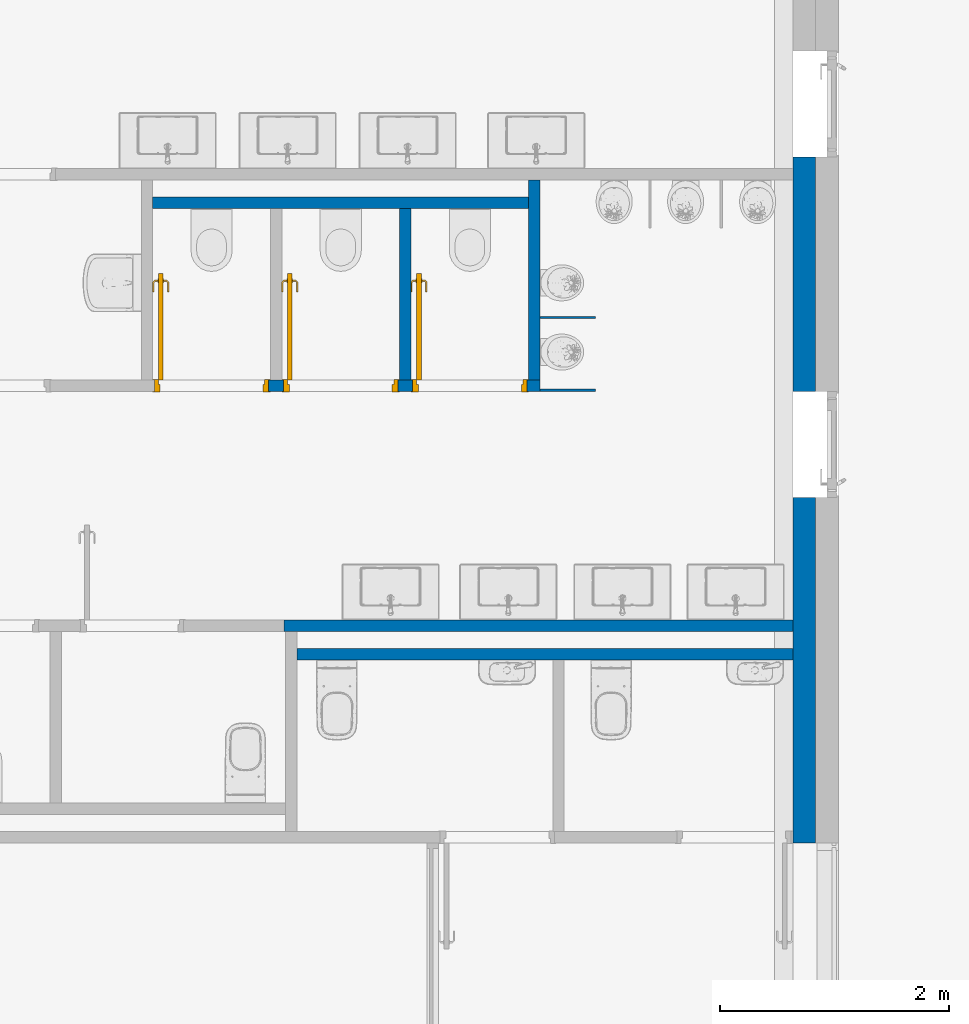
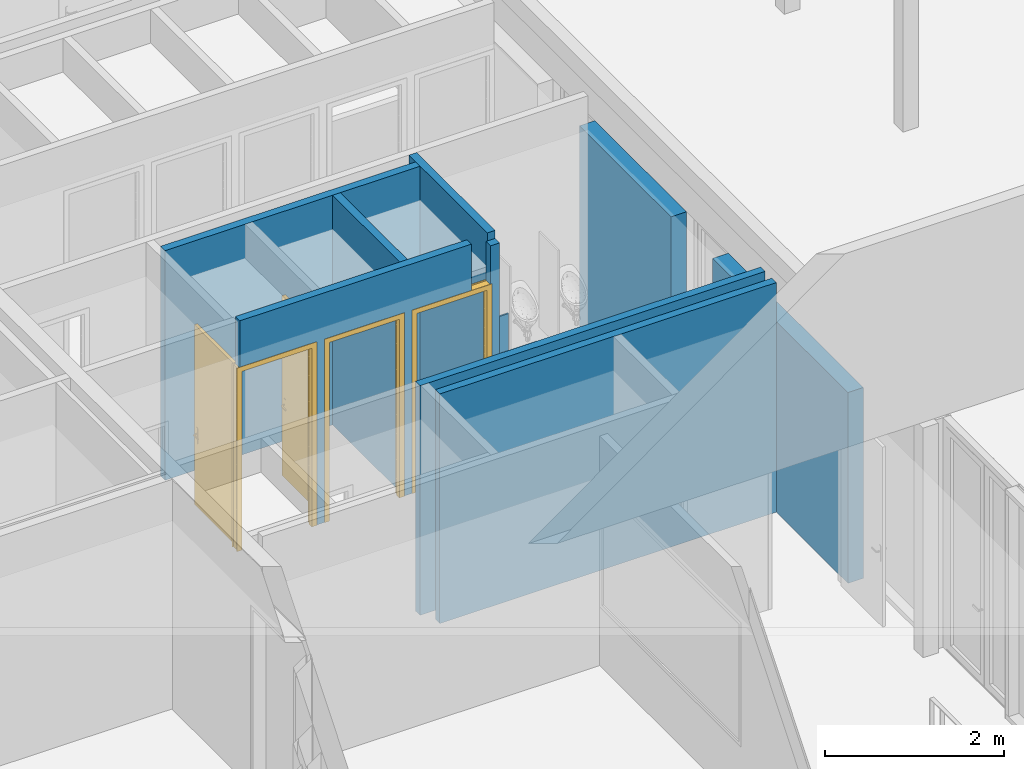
# One storey, part 118 of 240: 11 walls, 3 doors, 3 openings.
"""IFC2X3 building model written with IfcOpenShell, lengths in centimetres."""

import ifcopenshell
import ifcopenshell.guid

model = None  # the IFC model being written
_history = None  # IfcOwnerHistory: only IFC2X3 demands one
_inside = {}  # id of a spatial element -> (the spatial element, [elements in it])
_under = {}  # id of a project, library or spatial element -> (it, [spatial elements below it])
_declared = {}  # id of a project -> (the project, [libraries it declares])
_typed = {}  # id of a type object -> (the type object, [elements of that type])
_made_of = {}  # id of a material, layer set ... -> (it, [elements and type objects made of it])


def new_model(schema):
    """Start an empty IFC model of exactly this schema.

    Asked for "IFC4X3", IfcOpenShell would pick the latest addendum, in which some entities
    have other attributes; the version numbers below select the first issue.
    IFC2X3 requires an IfcOwnerHistory on every rooted entity: one is made here for all.
    """
    global model, _history
    if schema == "IFC4X3":
        model = ifcopenshell.file(schema_version=(4, 3, 0, 0))
    else:
        model = ifcopenshell.file(schema=schema)
    _inside.clear()
    _under.clear()
    _declared.clear()
    _typed.clear()
    _made_of.clear()
    _history = None
    if model.schema == "IFC2X3":
        org = make("IfcOrganization", Name="unknown")
        user = make(
            "IfcPersonAndOrganization",
            ThePerson=make("IfcPerson", FamilyName="unknown"),
            TheOrganization=org,
        )
        app = make(
            "IfcApplication",
            ApplicationDeveloper=org,
            Version="unknown",
            ApplicationFullName="unknown",
            ApplicationIdentifier="unknown",
        )
        _history = make(
            "IfcOwnerHistory",
            OwningUser=user,
            OwningApplication=app,
            ChangeAction="ADDED",
            CreationDate=0,
        )
    return model


def make(cls, **values):
    """One entity of the class cls with the attributes given. An attribute that is None is left unset."""
    return model.create_entity(
        cls, **{name: value for name, value in values.items() if value is not None}
    )


def entity(cls, *values):
    """Any entity or typed value of the class cls, its attributes in the order of the schema. None: left unset."""
    e = model.create_entity(cls)
    for i, value in enumerate(values):
        if value is not None:
            e[i] = value
    return e


def rooted(cls, **values):
    """An entity with a GlobalId (a new one), such as an element, a storey or a relation."""
    return make(cls, GlobalId=ifcopenshell.guid.new(), OwnerHistory=_history, **values)


def si_unit(unit_type, name, prefix=None):
    """IfcSIUnit, for example si_unit("LENGTHUNIT", "METRE", prefix="MILLI")."""
    return make("IfcSIUnit", UnitType=unit_type, Prefix=prefix, Name=name)


def converted_unit(unit_type, name, factor, base, dimensions=None, offset=None):
    """IfcConversionBasedUnit, such as the inch: factor (a typed value) times the base unit."""
    return make(
        "IfcConversionBasedUnit"
        if offset is None
        else "IfcConversionBasedUnitWithOffset",
        ConversionOffset=offset,
        Dimensions=None
        if dimensions is None
        else entity("IfcDimensionalExponents", *dimensions),
        UnitType=unit_type,
        Name=name,
        ConversionFactor=make(
            "IfcMeasureWithUnit", ValueComponent=factor, UnitComponent=base
        ),
    )


def derived_unit(unit_type, elements):
    """IfcDerivedUnit: a product of units, each with its exponent."""
    return make(
        "IfcDerivedUnit",
        Elements=[
            make("IfcDerivedUnitElement", Unit=unit, Exponent=power)
            for unit, power in elements
        ],
        UnitType=unit_type,
    )


def assignment(units):
    """IfcUnitAssignment: the units of a project."""
    return None if units is None else make("IfcUnitAssignment", Units=units)


def point(xyz):
    """IfcCartesianPoint."""
    return None if xyz is None else make("IfcCartesianPoint", Coordinates=xyz)


def direction(xyz):
    """IfcDirection."""
    return None if xyz is None else make("IfcDirection", DirectionRatios=xyz)


def frame(location, z_axis=None, x_axis=None):
    """IfcAxis2Placement3D, a coordinate frame: its origin and axes. An axis left out is left unset."""
    return make(
        "IfcAxis2Placement3D",
        Location=point(location),
        Axis=direction(z_axis),
        RefDirection=direction(x_axis),
    )


def frame_2d(location, x_axis=None):
    """IfcAxis2Placement2D, a coordinate frame in the plane: its origin and x axis."""
    return make(
        "IfcAxis2Placement2D", Location=point(location), RefDirection=direction(x_axis)
    )


def origin():
    """The frame at (0, 0, 0) with its axes left unset."""
    return frame((0.0, 0.0, 0.0))


def place(relative_to, where):
    """IfcLocalPlacement: puts the frame where relative to a parent placement (None: the world)."""
    return make(
        "IfcLocalPlacement", PlacementRelTo=relative_to, RelativePlacement=where
    )


def context(
    kind, dimensions, precision=None, world=None, true_north=None, identifier=None
):
    """IfcGeometricRepresentationContext, for example the 3D "Model" context."""
    return make(
        "IfcGeometricRepresentationContext",
        ContextIdentifier=identifier,
        ContextType=kind,
        CoordinateSpaceDimension=dimensions,
        Precision=precision,
        WorldCoordinateSystem=world,
        TrueNorth=true_north,
    )


def subcontext(parent, identifier, kind, view, scale=None):
    """IfcGeometricRepresentationSubContext, for example "Body" below "Model"."""
    return make(
        "IfcGeometricRepresentationSubContext",
        ContextIdentifier=identifier,
        ContextType=kind,
        ParentContext=parent,
        TargetScale=scale,
        TargetView=view,
    )


def project(units=None, contexts=None):
    """IfcProject with its units and contexts."""
    return rooted(
        "IfcProject",
        Name="project",
        RepresentationContexts=contexts,
        UnitsInContext=assignment(units),
    )


def spatial(cls, under=None, at=None, **own):
    """A site, building, storey or space (cls), placed at a placement, below another one or the project."""
    s = rooted(cls, ObjectPlacement=at, **own)
    if under is not None:
        _under.setdefault(under.id(), (under, []))[1].append(s)
    return s


def profile(cls, at=None, kind="AREA", **sizes):
    """A parametric profile (cls). Its sizes go by their IFC names, for example OverallWidth=200.0."""
    return make(cls, ProfileType=kind, Position=at, **sizes)


def rectangle(**sizes):
    """IfcRectangleProfileDef."""
    return profile("IfcRectangleProfileDef", **sizes)


def extrude(swept, where, along, depth):
    """IfcExtrudedAreaSolid: the profile swept, set in the frame where, extruded along a direction by depth."""
    return make(
        "IfcExtrudedAreaSolid",
        SweptArea=swept,
        Position=where,
        ExtrudedDirection=direction(along),
        Depth=depth,
    )


def faces_of(points, faces, orient=None, outer=None):
    """IfcFace entities. A face is a list of loops; a loop is a list of indices into points, from 0.

    orient and outer hold one flag for each loop. By default every Orientation is true, the
    first loop of a face is its IfcFaceOuterBound and the others are IfcFaceBound.
    """
    made = []
    for i, loops in enumerate(faces):
        bounds = []
        for j, loop in enumerate(loops):
            is_outer = j == 0 if outer is None else outer[i][j]
            bounds.append(
                make(
                    "IfcFaceOuterBound" if is_outer else "IfcFaceBound",
                    Bound=make("IfcPolyLoop", Polygon=[points[k] for k in loop]),
                    Orientation=True if orient is None else orient[i][j],
                )
            )
        made.append(make("IfcFace", Bounds=bounds))
    return made


def faceted_brep(points, faces, orient=None, outer=None, voids=None):
    """IfcFacetedBrep: a solid bounded by flat faces; with voids (closed shells), ...WithVoids."""
    shared = [point(p) for p in points]
    hull = make("IfcClosedShell", CfsFaces=faces_of(shared, faces, orient, outer))
    if voids is None:
        return make("IfcFacetedBrep", Outer=hull)
    return make(
        "IfcFacetedBrepWithVoids",
        Outer=hull,
        Voids=[
            make(cls, CfsFaces=faces_of(shared, fs, o, b)) for cls, fs, o, b in voids
        ],
    )


def shape(context_of_items, identifier, shape_type, items):
    """IfcShapeRepresentation: the items that make up one representation, for example the "Body"."""
    return make(
        "IfcShapeRepresentation",
        ContextOfItems=context_of_items,
        RepresentationIdentifier=identifier,
        RepresentationType=shape_type,
        Items=items,
    )


def source(mapping_origin, context_of_items, identifier, shape_type, items):
    """IfcRepresentationMap: a shape defined once, which mapped items show again and again."""
    return make(
        "IfcRepresentationMap",
        MappingOrigin=mapping_origin,
        MappedRepresentation=shape(context_of_items, identifier, shape_type, items),
    )


def transform(
    local_origin,
    x_axis=None,
    y_axis=None,
    z_axis=None,
    scale=None,
    scale2=None,
    scale3=None,
    uniform=True,
):
    """IfcCartesianTransformationOperator3D, or its non-uniform kind. x_axis, y_axis, z_axis: its Axis1, 2, 3."""
    if uniform:
        return make(
            "IfcCartesianTransformationOperator3D",
            Axis1=direction(x_axis),
            Axis2=direction(y_axis),
            LocalOrigin=point(local_origin),
            Scale=scale,
            Axis3=direction(z_axis),
        )
    return make(
        "IfcCartesianTransformationOperator3DnonUniform",
        Axis1=direction(x_axis),
        Axis2=direction(y_axis),
        LocalOrigin=point(local_origin),
        Scale=scale,
        Axis3=direction(z_axis),
        Scale2=scale2,
        Scale3=scale3,
    )


def mapped(mapping_source, mapping_target):
    """IfcMappedItem: shows the shape of a source again, moved by a transform."""
    return make(
        "IfcMappedItem", MappingSource=mapping_source, MappingTarget=mapping_target
    )


def material(Name=None, Category=None):
    """IfcMaterial."""
    return make("IfcMaterial", Name=Name, Category=Category)


def material_list(materials):
    """IfcMaterialList."""
    return make("IfcMaterialList", Materials=materials)


def layer(
    of_material, thickness, ventilated=None, Name=None, Category=None, Priority=None
):
    """IfcMaterialLayer: one layer of a wall or slab, of a material (None: an air gap)."""
    return make(
        "IfcMaterialLayer",
        Material=of_material,
        LayerThickness=thickness,
        IsVentilated=ventilated,
        Name=Name,
        Category=Category,
        Priority=Priority,
    )


def layer_set(layers, Name=None):
    """IfcMaterialLayerSet."""
    return make("IfcMaterialLayerSet", MaterialLayers=layers, LayerSetName=Name)


def layer_usage(for_layer_set, set_direction, sense, offset, extent=None):
    """IfcMaterialLayerSetUsage: how a layer set lies in its element."""
    return make(
        "IfcMaterialLayerSetUsage",
        ForLayerSet=for_layer_set,
        LayerSetDirection=set_direction,
        DirectionSense=sense,
        OffsetFromReferenceLine=offset,
        ReferenceExtent=extent,
    )


def made_of(thing, what):
    """Note that an element or type object is made of a material, layer set ...; save() writes the relation."""
    if what is not None:
        _made_of.setdefault(what.id(), (what, []))[1].append(thing)
    return thing


def type_object(cls, material=None, **own):
    """A type object (cls), such as IfcWallType, which elements share."""
    return made_of(rooted(cls, **own), material)


def type_shapes(of_type, sources):
    """Give a type object the sources (RepresentationMaps) that its elements show as mapped items."""
    of_type.RepresentationMaps = sources


def element(
    cls,
    number,
    at=None,
    inside=None,
    cuts=None,
    type_object=None,
    material=None,
    context=None,
    identifier="Body",
    shape_type=None,
    held_by="IfcProductDefinitionShape",
    body=None,
    shapes=None,
    **own,
):
    """One element of the class cls, such as IfcWall. Its Tag is "e" and its number.

    at: its placement. inside: the storey or other place that contains it. cuts: it is an
    opening in that element (IfcRelVoidsElement). A single representation is given by context,
    identifier, shape_type and body (its items); several are given by shapes. held_by: the class
    of the entity that holds the representations. save() writes the other relations.
    """
    e = rooted(cls, Tag="e%d" % number, ObjectPlacement=at, **own)
    if body is not None:
        shapes = [shape(context, identifier, shape_type, body)]
    if shapes is not None:
        e.Representation = make(held_by, Representations=shapes)
    if inside is not None:
        _inside.setdefault(inside.id(), (inside, []))[1].append(e)
    if cuts is not None:
        rooted(
            "IfcRelVoidsElement", RelatingBuildingElement=cuts, RelatedOpeningElement=e
        )
    if type_object is not None:
        _typed.setdefault(type_object.id(), (type_object, []))[1].append(e)
    return made_of(e, material)


def fill(opening, filler):
    """IfcRelFillsElement: the door or window that sits in an opening."""
    return rooted(
        "IfcRelFillsElement",
        RelatingOpeningElement=opening,
        RelatedBuildingElement=filler,
    )


def aggregate(whole, parts):
    """IfcRelAggregates: a whole, such as a stair, and the parts it consists of."""
    return rooted("IfcRelAggregates", RelatingObject=whole, RelatedObjects=parts)


def save(model, path):
    """Write the relations noted so far, then the file.

    IfcRelAggregates (storeys below a building ...), IfcRelContainedInSpatialStructure (elements
    in a storey), IfcRelDefinesByType, IfcRelAssociatesMaterial and IfcRelDeclares: one each for
    every whole, place, type object, material and project.
    """
    for whole, parts in _under.values():
        aggregate(whole, parts)
    for where, things in _inside.values():
        rooted(
            "IfcRelContainedInSpatialStructure",
            RelatedElements=things,
            RelatingStructure=where,
        )
    for kind, things in _typed.values():
        rooted("IfcRelDefinesByType", RelatedObjects=things, RelatingType=kind)
    for what, things in _made_of.values():
        rooted("IfcRelAssociatesMaterial", RelatedObjects=things, RelatingMaterial=what)
    for by, libraries in _declared.values():
        rooted("IfcRelDeclares", RelatingContext=by, RelatedDefinitions=libraries)
    model.write(path)


model = new_model("IFC2X3")

# Units and contexts
model_context = context("Model", 3, precision=0.001, world=origin(), true_north=direction((6.12303176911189e-17, 1.0)))
body_context = subcontext(model_context, "Body", "Model", "MODEL_VIEW")
ifc_project = project(units=[si_unit("LENGTHUNIT", "METRE", prefix="CENTI"), si_unit("AREAUNIT", "SQUARE_METRE"), si_unit("VOLUMEUNIT", "CUBIC_METRE"), converted_unit("PLANEANGLEUNIT", "DEGREE", entity("IfcRatioMeasure", 0.0174532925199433), si_unit("PLANEANGLEUNIT", "RADIAN"), dimensions=[0, 0, 0, 0, 0, 0, 0]), si_unit("MASSUNIT", "GRAM", prefix="KILO"), derived_unit("MASSDENSITYUNIT", [(si_unit("MASSUNIT", "GRAM", prefix="KILO"), 1), (si_unit("LENGTHUNIT", "METRE"), -3)]), si_unit("TIMEUNIT", "SECOND"), si_unit("FREQUENCYUNIT", "HERTZ"), si_unit("THERMODYNAMICTEMPERATUREUNIT", "DEGREE_CELSIUS"), derived_unit("THERMALTRANSMITTANCEUNIT", [(si_unit("MASSUNIT", "GRAM", prefix="KILO"), 1), (si_unit("THERMODYNAMICTEMPERATUREUNIT", "KELVIN"), -1), (si_unit("TIMEUNIT", "SECOND"), -3)]), derived_unit("VOLUMETRICFLOWRATEUNIT", [(si_unit("LENGTHUNIT", "METRE"), 3), (si_unit("TIMEUNIT", "SECOND"), -1)]), si_unit("ELECTRICCURRENTUNIT", "AMPERE"), si_unit("ELECTRICVOLTAGEUNIT", "VOLT"), si_unit("POWERUNIT", "WATT"), si_unit("FORCEUNIT", "NEWTON", prefix="KILO"), si_unit("ILLUMINANCEUNIT", "LUX"), si_unit("LUMINOUSFLUXUNIT", "LUMEN"), si_unit("LUMINOUSINTENSITYUNIT", "CANDELA"), derived_unit("USERDEFINED", [(si_unit("MASSUNIT", "GRAM", prefix="KILO"), -1), (si_unit("LENGTHUNIT", "METRE"), -2), (si_unit("TIMEUNIT", "SECOND"), 3), (si_unit("LUMINOUSFLUXUNIT", "LUMEN"), 1)]), derived_unit("LINEARVELOCITYUNIT", [(si_unit("LENGTHUNIT", "METRE"), 1), (si_unit("TIMEUNIT", "SECOND"), -1)]), si_unit("PRESSUREUNIT", "PASCAL"), derived_unit("USERDEFINED", [(si_unit("LENGTHUNIT", "METRE"), -2), (si_unit("MASSUNIT", "GRAM", prefix="KILO"), 1), (si_unit("TIMEUNIT", "SECOND"), -2)])], contexts=[model_context])

# Site, building, storey
site_placement = place(None, frame((-2781.94577612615, 7442.24238424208, 0.0)))
site = spatial("IfcSite", under=ifc_project, at=site_placement, Name="Default", CompositionType="ELEMENT")
building_placement = place(site_placement, origin())
building = spatial("IfcBuilding", under=site, at=building_placement, CompositionType="ELEMENT")
storey_placement = place(building_placement, origin())
storey = spatial("IfcBuildingStorey", under=building, at=storey_placement, Name="N00 - COO", CompositionType="ELEMENT", Elevation=0.0)

# Walls
ifc_material_1 = material(Name="01 - Maçonnerie")
ifc_layer_1 = layer(ifc_material_1, 20.0)
ifc_layer_set_1 = layer_set([ifc_layer_1], Name="Mur de base:04 - Structure - béton - 20cm")
ifc_layer_usage_1 = layer_usage(ifc_layer_set_1, "AXIS2", "NEGATIVE", 10.0)
wall_type_1 = type_object("IfcWallType", Name="Mur de base:04 - Structure - béton - 20cm", PredefinedType="STANDARD", material=ifc_layer_set_1)
wall_1_placement = place(building_placement, frame((-8911.93218005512, -3205.07903364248, 0.0), z_axis=(0.0, 0.0, 1.0), x_axis=(0.0, 1.0, 0.0)))
element("IfcWallStandardCase", 1, at=wall_1_placement, inside=storey, type_object=wall_type_1, material=ifc_layer_usage_1, Name="Mur de base:04 - Structure - béton - 20cm", ObjectType="Mur de base:04 - Structure - béton - 20cm", context=body_context, shape_type="SweptSolid", body=[
    extrude(rectangle(XDim=302.0, YDim=19.9999999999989, at=frame_2d((151.0, 0.0), x_axis=(-1.0, 0.0))), origin(), (0.0, 0.0, 1.0), 260.0),
])
ifc_layer_usage_2 = layer_usage(ifc_layer_set_1, "AXIS2", "NEGATIVE", 10.0)
wall_2_placement = place(building_placement, frame((-8911.93218005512, -2810.07903364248, -26.0), z_axis=(0.0, 0.0, 1.0), x_axis=(0.0, 1.0, 0.0)))
element("IfcWallStandardCase", 2, at=wall_2_placement, inside=storey, type_object=wall_type_1, material=ifc_layer_usage_2, Name="Mur de base:04 - Structure - béton - 20cm", ObjectType="Mur de base:04 - Structure - béton - 20cm", context=body_context, shape_type="SweptSolid", body=[
    extrude(rectangle(XDim=204.999999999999, YDim=19.9999999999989, at=frame_2d((102.499999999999, 0.0), x_axis=(-1.0, 0.0))), origin(), (0.0, 0.0, 1.0), 286.0),
])

# Wall, openings, doors
ifc_material_2 = material(Name="01 - Enduit/Plâtre")
ifc_layer_2 = layer(ifc_material_2, 1.3)
ifc_material_3 = material(Name="00 - Isolant")
ifc_layer_3 = layer(ifc_material_3, 7.4)
ifc_layer_4 = layer(ifc_material_2, 1.3)
ifc_layer_set_2 = layer_set([ifc_layer_2, ifc_layer_3, ifc_layer_4], Name="Mur de base:06 - cloisons - Ba13 10cm")
ifc_layer_usage_3 = layer_usage(ifc_layer_set_2, "AXIS2", "NEGATIVE", 5.0)
wall_type_2 = type_object("IfcWallType", Name="Mur de base:06 - cloisons - Ba13 10cm", PredefinedType="STANDARD", material=ifc_layer_set_2)
wall_3_placement = place(building_placement, frame((-9477.95999697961, -2805.07903364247, 0.0)))
wall_3 = element("IfcWallStandardCase", 3, at=wall_3_placement, inside=storey, type_object=wall_type_2, material=ifc_layer_usage_3, Name="Mur de base:06 - cloisons - Ba13 10cm", ObjectType="Mur de base:06 - cloisons - Ba13 10cm", context=body_context, shape_type="SweptSolid", body=[
    extrude(rectangle(XDim=298.523333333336, YDim=10.0000000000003, at=frame_2d((149.261666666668, 0.0), x_axis=(-1.0, 0.0))), origin(), (0.0, 0.0, 1.0), 313.0),
])
opening_1_placement = place(wall_3_placement, frame((-2.53999999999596, -5.0, 0.0)))
opening_1 = element("IfcOpeningElement", 4, at=opening_1_placement, cuts=wall_3, Name="Int. Simple:PP simple (0.93m x 2.50m):1", ObjectType="Opening", context=body_context, shape_type="SweptSolid", body=[
    extrude(rectangle(XDim=248.500000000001, YDim=99.9999999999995, at=frame_2d((124.250000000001, 50.0), x_axis=(1.0, 0.0))), frame((0.0, 0.0, 0.0), z_axis=(0.0, 1.0, 0.0), x_axis=(0.0, 0.0, 1.0)), (0.0, 0.0, 1.0), 10.0),
])
opening_2_placement = place(wall_3_placement, frame((110.443328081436, -5.0, 0.0)))
opening_2 = element("IfcOpeningElement", 5, at=opening_2_placement, cuts=wall_3, Name="Int. Simple:PP simple (0.93m x 2.50m):1", ObjectType="Opening", context=body_context, shape_type="SweptSolid", body=[
    extrude(rectangle(XDim=248.500000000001, YDim=99.9999999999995, at=frame_2d((124.250000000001, 50.0), x_axis=(1.0, 0.0))), frame((0.0, 0.0, 0.0), z_axis=(0.0, 1.0, 0.0), x_axis=(0.0, 0.0, 1.0)), (0.0, 0.0, 1.0), 10.0),
])
opening_3_placement = place(wall_3_placement, frame((223.44332808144, -5.0, 0.0)))
opening_3 = element("IfcOpeningElement", 6, at=opening_3_placement, cuts=wall_3, Name="Int. Simple:PP simple (0.93m x 2.50m):1", ObjectType="Opening", context=body_context, shape_type="SweptSolid", body=[
    extrude(rectangle(XDim=248.500000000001, YDim=99.9999999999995, at=frame_2d((124.250000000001, 50.0), x_axis=(1.0, 0.0))), frame((0.0, 0.0, 0.0), z_axis=(0.0, 1.0, 0.0), x_axis=(0.0, 0.0, 1.0)), (0.0, 0.0, 1.0), 10.0),
])
ifc_material_4 = material(Name="Finition Peinture - Blanc satiné")
ifc_material_5 = material(Name="Bois - Panneau de porte")
ifc_material_6 = material(Name="Bois - Cadre de porte")
ifc_material_list_1 = material_list([ifc_material_4, ifc_material_5, ifc_material_6])
ifc_material_list_2 = material_list([ifc_material_4, ifc_material_5, ifc_material_6])
door_style = type_object("IfcDoorStyle", Name="PP simple (0.93m x 2.50m)", ConstructionType="NOTDEFINED", OperationType="SINGLE_SWING_LEFT", ParameterTakesPrecedence=False, Sizeable=False, material=ifc_material_list_2)
shared_shape = source(origin(), body_context, "Body", "Brep", [
    faceted_brep([(97.0, -85.9647238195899, 86.6003983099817), (97.0, -85.0, 87.0), (97.0, -85.0, 108.0), (97.0, -85.96472381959, 108.399601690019), (97.0, -87.0, 108.535898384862), (97.0, -88.0352761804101, 108.399601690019), (97.0, -89.0, 108.0), (97.0, -89.0, 87.0), (97.0, -88.03527618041, 86.6003983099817), (97.0, -87.0, 86.464101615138), (96.5000000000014, -85.96472381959, 108.399601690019), (96.5000000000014, -85.0, 108.0), (96.5000000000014, -85.0, 87.0), (96.5000000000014, -85.9647238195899, 86.6003983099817), (96.5000000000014, -87.0, 86.464101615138), (96.5000000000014, -88.03527618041, 86.6003983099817), (96.5000000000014, -89.0, 87.0), (96.5000000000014, -89.0, 108.0), (96.5000000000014, -88.0352761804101, 108.399601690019), (96.5000000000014, -87.0, 108.535898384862)], [[[0, 1, 2, 3, 4, 5, 6, 7, 8, 9]], [[10, 11, 12, 13, 14, 15, 16, 17, 18, 19]], [[16, 15, 8, 7]], [[8, 15, 14, 9]], [[14, 13, 0, 9]], [[13, 12, 1, 0]], [[2, 1, 12, 11]], [[11, 10, 3, 2]], [[3, 10, 19, 4]], [[19, 18, 5, 4]], [[18, 17, 6, 5]], [[7, 6, 17, 16]]]),
    faceted_brep([(92.5000000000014, -85.9647238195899, 86.6003983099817), (92.5000000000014, -85.0, 87.0), (92.5000000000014, -85.0, 108.0), (92.5000000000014, -85.96472381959, 108.399601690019), (92.5000000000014, -87.0, 108.535898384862), (92.5000000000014, -88.0352761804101, 108.399601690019), (92.5000000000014, -89.0, 108.0), (92.5000000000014, -89.0, 87.0), (92.5000000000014, -88.03527618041, 86.6003983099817), (92.5000000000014, -87.0, 86.464101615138), (92.0, -85.96472381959, 108.399601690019), (92.0, -85.0, 108.0), (92.0, -85.0, 87.0), (92.0, -85.9647238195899, 86.6003983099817), (92.0, -87.0, 86.464101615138), (92.0, -88.03527618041, 86.6003983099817), (92.0, -89.0, 87.0), (92.0, -89.0, 108.0), (92.0, -88.0352761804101, 108.399601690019), (92.0, -87.0, 108.535898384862)], [[[0, 1, 2, 3, 4, 5, 6, 7, 8, 9]], [[10, 11, 12, 13, 14, 15, 16, 17, 18, 19]], [[11, 10, 3, 2]], [[3, 10, 19, 4]], [[19, 18, 5, 4]], [[18, 17, 6, 5]], [[7, 6, 17, 16]], [[16, 15, 8, 7]], [[8, 15, 14, 9]], [[14, 13, 0, 9]], [[13, 12, 1, 0]], [[2, 1, 12, 11]]]),
    faceted_brep([(97.0, -87.2025298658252, 100.778044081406), (97.0, -86.7974701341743, 100.778044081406), (97.0, -86.3999999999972, 100.699999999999), (97.0, -86.3999999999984, 99.3000000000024), (97.0, -86.7974701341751, 99.2219559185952), (97.0, -87.202529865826, 99.221955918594), (97.0, -87.6000000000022, 99.2999999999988), (97.0, -87.6000000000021, 100.7), (99.7650950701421, -87.6000000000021, 100.7), (99.6004575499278, -87.2025298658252, 100.778044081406), (101.205345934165, -85.5976414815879, 100.778044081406), (100.800286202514, -85.4298602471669, 100.778044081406), (99.4326763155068, -86.7974701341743, 100.778044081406), (99.2680387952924, -86.3999999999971, 100.7), (99.2680387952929, -86.3999999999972, 99.3000000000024), (99.4326763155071, -86.7974701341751, 99.2219559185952), (100.800286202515, -85.4298602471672, 99.2219559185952), (101.205345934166, -85.5976414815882, 99.221955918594), (99.6004575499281, -87.202529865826, 99.221955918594), (99.7650950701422, -87.6000000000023, 99.2999999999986), (101.602816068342, -85.7622790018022, 100.7), (100.402816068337, -85.2652227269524, 100.7), (100.402816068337, -85.2652227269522, 99.3000000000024), (101.602816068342, -85.7622790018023, 99.2999999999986), (101.602816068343, -76.9981359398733, 99.2999999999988), (101.205345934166, -76.9981359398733, 99.221955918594), (100.800286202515, -76.9981359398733, 99.2219559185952), (100.402816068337, -76.9981359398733, 99.3000000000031), (100.402816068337, -76.9981359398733, 100.7), (100.800286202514, -76.9981359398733, 100.778044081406), (101.205345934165, -76.9981359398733, 100.778044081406), (101.602816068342, -76.9981359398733, 100.699999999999), (101.602816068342, -81.7692302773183, 100.7), (101.00281606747, -81.2139980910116, 100.78786867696), (100.402816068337, -81.1316793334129, 100.7), (100.402816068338, -81.1316793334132, 99.3000000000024), (101.002816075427, -81.2139981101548, 99.2121313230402), (101.602816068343, -81.7692299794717, 99.2999999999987)], [[[0, 1, 2, 3, 4, 5, 6, 7]], [[8, 9, 0, 7]], [[9, 10, 11, 12, 1, 0]], [[12, 13, 2, 1]], [[3, 2, 13, 14]], [[14, 15, 4, 3]], [[15, 16, 17, 18, 5, 4]], [[18, 19, 6, 5]], [[7, 6, 19, 8]], [[20, 10, 9, 8]], [[11, 21, 13, 12]], [[14, 13, 21, 22]], [[22, 16, 15, 14]], [[17, 23, 19, 18]], [[8, 19, 23, 20]], [[24, 25, 26, 27, 28, 29, 30, 31]], [[32, 30, 33]], [[31, 30, 32]], [[10, 20, 32]], [[33, 34, 11]], [[21, 11, 34]], [[34, 29, 28]], [[30, 29, 33]], [[29, 34, 33]], [[10, 32, 33]], [[10, 33, 11]], [[22, 21, 34, 28, 27, 35]], [[35, 26, 36]], [[37, 36, 25]], [[22, 35, 16]], [[35, 27, 26]], [[24, 37, 25]], [[23, 17, 37]], [[37, 17, 36]], [[17, 16, 36]], [[16, 35, 36]], [[25, 36, 26]], [[20, 23, 37, 24, 31, 32]]]),
    faceted_brep([(92.0, -87.2025298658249, 100.778044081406), (92.0, -87.6000000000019, 100.7), (92.0, -87.6000000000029, 99.2999999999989), (92.0, -87.2025298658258, 99.221955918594), (92.0, -86.7974701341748, 99.2219559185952), (92.0, -86.399999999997, 99.3000000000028), (92.0, -86.3999999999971, 100.7), (92.0, -86.797470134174, 100.778044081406), (89.7514795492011, -86.399999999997, 99.3000000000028), (89.751479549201, -86.399999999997, 100.7), (89.5868420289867, -86.7974701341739, 100.778044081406), (88.2054812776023, -85.4161093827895, 100.778044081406), (87.8004215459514, -85.5838906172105, 100.778044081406), (89.4190607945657, -87.2025298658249, 100.778044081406), (89.2544232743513, -87.6000000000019, 100.7), (89.2544232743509, -87.6000000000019, 99.2999999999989), (89.4190607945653, -87.2025298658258, 99.221955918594), (87.8004215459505, -85.5838906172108, 99.221955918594), (88.2054812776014, -85.4161093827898, 99.2219559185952), (89.5868420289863, -86.7974701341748, 99.2219559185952), (88.6029514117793, -85.2514718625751, 99.3000000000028), (88.6029514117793, -85.2514718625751, 100.7), (87.4029514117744, -85.7485281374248, 100.7), (87.4029514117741, -85.7485281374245, 99.2999999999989), (88.6029514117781, -76.9954216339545, 99.3000000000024), (88.2054812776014, -76.9954216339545, 99.2219559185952), (87.8004215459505, -76.9954216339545, 99.221955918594), (87.4029514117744, -76.9954216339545, 99.2999999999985), (87.4029514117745, -76.9954216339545, 100.7), (87.8004215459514, -76.9954216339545, 100.778044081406), (88.2054812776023, -76.9954216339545, 100.778044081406), (88.6029514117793, -76.9954216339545, 100.7), (88.6029514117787, -81.1234479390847, 99.3000000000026), (88.6029514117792, -81.1234467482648, 100.7), (88.0029514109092, -81.2057655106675, 100.78786867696), (87.4029514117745, -81.755479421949, 100.7), (87.4029514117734, -81.75547956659, 99.2999999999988), (88.0029514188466, -81.2057654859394, 99.2121313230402)], [[[0, 1, 2, 3, 4, 5, 6, 7]], [[6, 5, 8, 9]], [[9, 10, 7, 6]], [[10, 11, 12, 13, 0, 7]], [[13, 14, 1, 0]], [[2, 1, 14, 15]], [[15, 16, 3, 2]], [[16, 17, 18, 19, 4, 3]], [[19, 8, 5, 4]], [[9, 8, 20, 21]], [[21, 11, 10, 9]], [[12, 22, 14, 13]], [[15, 14, 22, 23]], [[23, 17, 16, 15]], [[18, 20, 8, 19]], [[24, 25, 26, 27, 28, 29, 30, 31]], [[21, 20, 32, 24, 31, 33]], [[33, 30, 34]], [[35, 34, 29]], [[21, 33, 11]], [[33, 31, 30]], [[28, 35, 29]], [[22, 12, 35]], [[35, 12, 34]], [[12, 11, 34]], [[11, 33, 34]], [[29, 34, 30]], [[22, 35, 28, 27, 36, 23]], [[36, 26, 37]], [[27, 26, 36]], [[17, 23, 36]], [[37, 32, 18]], [[20, 18, 32]], [[32, 25, 24]], [[26, 25, 37]], [[25, 32, 37]], [[17, 36, 37]], [[17, 37, 18]]]),
    faceted_brep([(92.5000000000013, -93.0, 245.0), (92.5000000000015, 0.0, 245.0), (92.5000000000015, 0.0, 0.0), (92.5000000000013, -93.0, 0.0), (96.5000000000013, -93.0, 245.0), (96.5000000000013, -93.0, 0.0), (96.5000000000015, 0.0, 0.0), (96.5000000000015, 0.0, 245.0)], [[[0, 1, 2, 3]], [[4, 5, 6, 7]], [[1, 0, 4, 7]], [[2, 1, 7, 6]], [[3, 2, 6, 5]], [[0, 3, 5, 4]]]),
    faceted_brep([(0.0, 10.0, 0.0), (-1.50000000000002, 10.0, 0.0), (-1.50000000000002, 10.5000000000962, 0.0), (5.0, 10.5000000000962, 0.0), (5.0, 4.0, 0.0), (3.50000000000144, 4.0, 0.0), (3.50000000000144, -0.500000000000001, 0.0), (-1.50000000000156, -0.500000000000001, 0.0), (-1.50000000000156, 0.0, 0.0), (0.0, 0.0, 0.0), (0.0, 0.0, 248.500000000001), (0.0, 10.0, 248.500000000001), (100.0, 10.0, 248.500000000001), (100.0, 10.0, 0.0), (101.5, 10.0, 0.0), (101.5, 10.0, 250.0), (-1.50000000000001, 10.0, 250.0), (5.0, 10.5000000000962, 243.5), (5.0, 4.0, 243.5), (95.0, 4.0, 243.5), (95.0, 4.0, 0.0), (96.499999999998, 4.0, 0.0), (96.499999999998, 4.0, 245.0), (3.50000000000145, 4.0, 245.0), (100.0, 0.0, 248.500000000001), (100.0, 0.0, 0.0), (101.500000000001, 0.0, 0.0), (101.500000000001, -0.500000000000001, 0.0), (96.499999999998, -0.500000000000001, 0.0), (95.0, 10.5000000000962, 0.0), (101.5, 10.5000000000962, 0.0), (95.0, 10.5000000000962, 243.5), (3.50000000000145, -0.500000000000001, 245.0), (96.499999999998, -0.500000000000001, 245.0), (101.500000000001, -0.500000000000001, 250.0), (-1.50000000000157, -0.500000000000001, 250.0), (-1.50000000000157, 0.0, 250.0), (101.500000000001, 0.0, 250.0), (-1.50000000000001, 10.5000000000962, 250.0), (101.5, 10.5000000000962, 250.0)], [[[0, 1, 2, 3, 4, 5, 6, 7, 8, 9]], [[0, 9, 10, 11]], [[1, 0, 11, 12, 13, 14, 15, 16]], [[3, 17, 18, 4]], [[5, 4, 18, 19, 20, 21, 22, 23]], [[12, 24, 25, 13]], [[13, 25, 26, 27, 28, 21, 20, 29, 30, 14]], [[19, 31, 29, 20]], [[11, 10, 24, 12]], [[18, 17, 31, 19]], [[5, 23, 32, 6]], [[7, 6, 32, 33, 28, 27, 34, 35]], [[8, 7, 35, 36]], [[9, 8, 36, 37, 26, 25, 24, 10]], [[2, 1, 16, 38]], [[3, 2, 38, 39, 30, 29, 31, 17]], [[33, 22, 21, 28]], [[37, 34, 27, 26]], [[39, 15, 14, 30]], [[32, 23, 22, 33]], [[36, 35, 34, 37]], [[38, 16, 15, 39]]]),
])
type_shapes(door_style, [shared_shape])
door_1_placement = place(opening_1_placement, frame((100.0, 10.0, 0.0), z_axis=(0.0, 0.0, 1.0), x_axis=(-1.0, 0.0, 0.0)))
door_1 = element("IfcDoor", 7, at=door_1_placement, inside=storey, type_object=door_style, material=ifc_material_list_1, Name="Int. Simple:PP simple (0.93m x 2.50m)", ObjectType="Int. Simple:PP simple (0.93m x 2.50m)", OverallHeight=248.500000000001, OverallWidth=99.9999999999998, context=body_context, shape_type="MappedRepresentation", body=[
    mapped(shared_shape, transform((0.0, 0.0, 0.0), scale=1.0)),
])
fill(opening_1, door_1)
ifc_material_list_3 = material_list([ifc_material_4, ifc_material_5, ifc_material_6])
door_2_placement = place(opening_2_placement, frame((100.0, 10.0, 0.0), z_axis=(0.0, 0.0, 1.0), x_axis=(-1.0, 0.0, 0.0)))
door_2 = element("IfcDoor", 8, at=door_2_placement, inside=storey, type_object=door_style, material=ifc_material_list_3, Name="Int. Simple:PP simple (0.93m x 2.50m)", ObjectType="Int. Simple:PP simple (0.93m x 2.50m)", OverallHeight=248.500000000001, OverallWidth=99.9999999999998, context=body_context, shape_type="MappedRepresentation", body=[
    mapped(shared_shape, transform((0.0, 0.0, 0.0), scale=1.0)),
])
fill(opening_2, door_2)
ifc_material_list_4 = material_list([ifc_material_4, ifc_material_5, ifc_material_6])
door_3_placement = place(opening_3_placement, frame((100.0, 10.0, 0.0), z_axis=(0.0, 0.0, 1.0), x_axis=(-1.0, 0.0, 0.0)))
door_3 = element("IfcDoor", 9, at=door_3_placement, inside=storey, type_object=door_style, material=ifc_material_list_4, Name="Int. Simple:PP simple (0.93m x 2.50m)", ObjectType="Int. Simple:PP simple (0.93m x 2.50m)", OverallHeight=248.500000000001, OverallWidth=99.9999999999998, context=body_context, shape_type="MappedRepresentation", body=[
    mapped(shared_shape, transform((0.0, 0.0, 0.0), scale=1.0)),
])
fill(opening_3, door_3)

# Walls
ifc_layer_usage_4 = layer_usage(ifc_layer_set_2, "AXIS2", "NEGATIVE", 5.0)
wall_4_placement = place(building_placement, frame((-9154.51666889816, -2805.07903364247, 0.0)))
element("IfcWallStandardCase", 10, at=wall_4_placement, inside=storey, type_object=wall_type_2, material=ifc_layer_usage_4, Name="Mur de base:06 - cloisons - Ba13 10cm", ObjectType="Mur de base:06 - cloisons - Ba13 10cm", context=body_context, shape_type="SweptSolid", body=[
    extrude(rectangle(XDim=11.4999999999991, YDim=10.0000000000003, at=frame_2d((5.74999999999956, 1.59872115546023e-14), x_axis=(-1.0, 0.0))), origin(), (0.0, 0.0, 1.0), 302.0),
])
ifc_layer_5 = layer(ifc_material_2, 1.3)
ifc_material_7 = material(Name="Terre cuite")
ifc_layer_6 = layer(ifc_material_7, 7.4)
ifc_layer_7 = layer(ifc_material_2, 1.3)
ifc_layer_set_3 = layer_set([ifc_layer_5, ifc_layer_6, ifc_layer_7], Name="Mur de base:06 - cloisons - Carreau de terre cuite (10cm)")
ifc_layer_usage_5 = layer_usage(ifc_layer_set_3, "AXIS2", "NEGATIVE", 5.0)
wall_type_3 = type_object("IfcWallType", Name="Mur de base:06 - cloisons - Carreau de terre cuite (10cm)", PredefinedType="STANDARD", material=ifc_layer_set_3)
wall_5_placement = place(building_placement, frame((-9148.01666889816, -2800.07903364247, 0.0), z_axis=(0.0, 0.0, 1.0), x_axis=(0.0, 1.0, 0.0)))
element("IfcWallStandardCase", 11, at=wall_5_placement, inside=storey, type_object=wall_type_3, material=ifc_layer_usage_5, Name="Mur de base:06 - cloisons - Carreau de terre cuite (10cm)", ObjectType="Mur de base:06 - cloisons - Carreau de terre cuite (10cm)", context=body_context, shape_type="SweptSolid", body=[
    extrude(rectangle(XDim=175.0, YDim=10.0000000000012, at=frame_2d((87.4999999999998, 0.0), x_axis=(-1.0, 0.0))), origin(), (0.0, 0.0, 1.0), 313.0),
])
ifc_layer_usage_6 = layer_usage(ifc_layer_set_3, "AXIS2", "NEGATIVE", 5.0)
wall_6_placement = place(building_placement, frame((-9261.01666889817, -2650.07903364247, 0.0), z_axis=(0.0, 0.0, 1.0), x_axis=(0.0, -1.0, 0.0)))
element("IfcWallStandardCase", 12, at=wall_6_placement, inside=storey, type_object=wall_type_3, material=ifc_layer_usage_6, Name="Mur de base:06 - cloisons - Carreau de terre cuite (10cm)", ObjectType="Mur de base:06 - cloisons - Carreau de terre cuite (10cm)", context=body_context, shape_type="SweptSolid", body=[
    extrude(rectangle(XDim=150.0, YDim=10.0000000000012, at=frame_2d((75.0000000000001, 0.0), x_axis=(-1.0, 0.0))), origin(), (0.0, 0.0, 1.0), 313.0),
])
ifc_layer_usage_7 = layer_usage(ifc_layer_set_3, "AXIS2", "NEGATIVE", 5.0)
wall_7_placement = place(building_placement, frame((-9482.0, -2645.07903364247, 0.0)))
element("IfcWallStandardCase", 13, at=wall_7_placement, inside=storey, type_object=wall_type_3, material=ifc_layer_usage_7, Name="Mur de base:06 - cloisons - Carreau de terre cuite (10cm)", ObjectType="Mur de base:06 - cloisons - Carreau de terre cuite (10cm)", context=body_context, shape_type="SweptSolid", body=[
    extrude(rectangle(XDim=328.983328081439, YDim=10.0000000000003, at=frame_2d((164.491664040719, 1.09690034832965e-13), x_axis=(-1.0, 0.0))), origin(), (0.0, 0.0, 1.0), 313.0),
])
ifc_layer_usage_8 = layer_usage(ifc_layer_set_3, "AXIS2", "NEGATIVE", 5.0)
wall_8_placement = place(building_placement, frame((-9355.85922281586, -3040.07903364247, 0.0)))
element("IfcWallStandardCase", 14, at=wall_8_placement, inside=storey, type_object=wall_type_3, material=ifc_layer_usage_8, Name="Mur de base:06 - cloisons - Carreau de terre cuite (10cm)", ObjectType="Mur de base:06 - cloisons - Carreau de terre cuite (10cm)", context=body_context, shape_type="SweptSolid", body=[
    extrude(rectangle(XDim=433.92704276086, YDim=10.0000000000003, at=frame_2d((216.96352138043, 2.97539770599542e-14), x_axis=(-1.0, 0.0))), origin(), (0.0, 0.0, 1.0), 313.0),
])
ifc_layer_usage_9 = layer_usage(ifc_layer_set_3, "AXIS2", "NEGATIVE", 5.0)
wall_9_placement = place(building_placement, frame((-9367.0, -3015.07903364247, 0.0)))
element("IfcWallStandardCase", 15, at=wall_9_placement, inside=storey, type_object=wall_type_3, material=ifc_layer_usage_9, Name="Mur de base:06 - cloisons - Carreau de terre cuite (10cm)", ObjectType="Mur de base:06 - cloisons - Carreau de terre cuite (10cm)", context=body_context, shape_type="SweptSolid", body=[
    extrude(rectangle(XDim=445.067816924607, YDim=10.0000000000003, at=frame_2d((222.533908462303, 1.32782673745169e-13), x_axis=(-1.0, 0.0))), origin(), (0.0, 0.0, 1.0), 313.0),
])
ifc_material_8 = material(Name="Pin")
ifc_layer_8 = layer(ifc_material_8, 2.0)
ifc_layer_set_4 = layer_set([ifc_layer_8], Name="Mur de base:06 - habillage bois collée 2cm")
ifc_layer_usage_10 = layer_usage(ifc_layer_set_4, "AXIS2", "NEGATIVE", 1.0)
wall_type_4 = type_object("IfcWallType", Name="Mur de base:06 - habillage bois collée 2cm", PredefinedType="STANDARD", material=ifc_layer_set_4)
wall_10_placement = place(storey_placement, frame((-9094.51666889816, -2809.07903364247, 0.0), z_axis=(0.0, 0.0, 1.0), x_axis=(-1.0, 0.0, 0.0)))
element("IfcWallStandardCase", 16, at=wall_10_placement, inside=storey, type_object=wall_type_4, material=ifc_layer_usage_10, Name="Mur de base:06 - habillage bois collée 2cm", ObjectType="Mur de base:06 - habillage bois collée 2cm", context=body_context, shape_type="SweptSolid", body=[
    extrude(rectangle(XDim=48.4999999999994, YDim=2.00000000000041, at=frame_2d((24.2499999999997, 0.0), x_axis=(-1.0, 0.0))), origin(), (0.0, 0.0, 1.0), 150.0),
])
ifc_layer_usage_11 = layer_usage(ifc_layer_set_4, "AXIS2", "NEGATIVE", 1.0)
wall_11_placement = place(storey_placement, frame((-9094.51666889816, -2745.35889248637, 0.0), z_axis=(0.0, 0.0, 1.0), x_axis=(-1.0, 0.0, 0.0)))
element("IfcWallStandardCase", 17, at=wall_11_placement, inside=storey, type_object=wall_type_4, material=ifc_layer_usage_11, Name="Mur de base:06 - habillage bois collée 2cm", ObjectType="Mur de base:06 - habillage bois collée 2cm", context=body_context, shape_type="SweptSolid", body=[
    extrude(rectangle(XDim=48.4999999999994, YDim=2.00000000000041, at=frame_2d((24.2499999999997, 0.0), x_axis=(-1.0, 0.0))), origin(), (0.0, 0.0, 1.0), 150.0),
])

save(model, "model.ifc")
